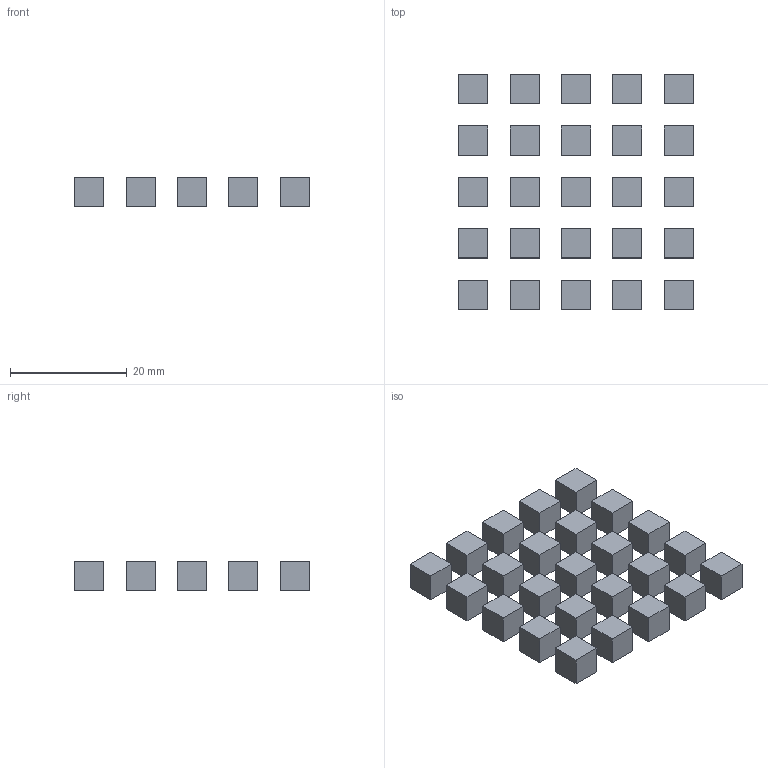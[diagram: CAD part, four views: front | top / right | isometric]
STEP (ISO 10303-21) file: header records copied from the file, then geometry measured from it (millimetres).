
FILE_DESCRIPTION(('FreeCAD Model'),'2;1');
FILE_NAME('Open CASCADE Shape Model','2026-10-03T15:52:21',('Author'),( ''),'Open CASCADE STEP processor 7.8','FreeCAD','Unknown');
FILE_SCHEMA(('AUTOMOTIVE_DESIGN { 1 0 10303 214 1 1 1 1 }'));
Length unit declared in the file: millimetre
Products named in the file (1): Dice_25_REFERENCE
Bounding box: 40.2 x 40.2 x 5 mm (x, y, z)
Volume: 3125 mm3; surface area: 3750 mm2
Topology: 25 solids, 25 shells, 150 faces, 300 edges, 200 vertices
Faces by surface type: bspline 150
Entity records: 3466 total; most frequent: CARTESIAN_POINT 1401, ORIENTED_EDGE 600, EDGE_CURVE 300, B_SPLINE_CURVE_WITH_KNOTS 300, VERTEX_POINT 200, ADVANCED_FACE 150, FACE_BOUND 150, EDGE_LOOP 150
